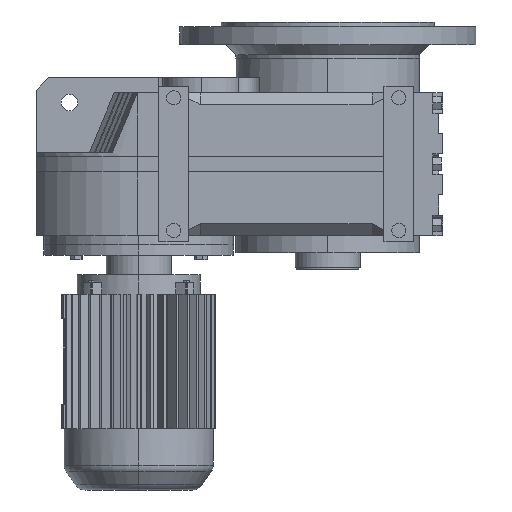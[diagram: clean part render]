
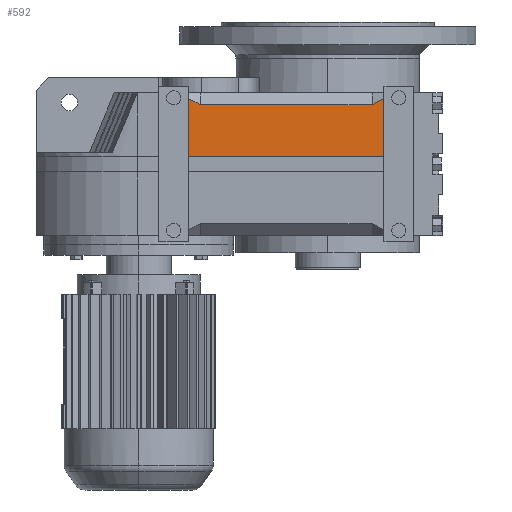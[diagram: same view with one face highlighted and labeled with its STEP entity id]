
A CAD part, left-side view. The second image highlights one B-rep face of the part: STEP entity #592.
In plain terms, the highlighted planar face has unit normal (-1, 0, 0).
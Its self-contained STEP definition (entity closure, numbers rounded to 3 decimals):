
#44 = EDGE_CURVE('',#45,#47,#49,.T.);
#45 = VERTEX_POINT('',#46);
#46 = CARTESIAN_POINT('',(-100.76,-52.,118.26));
#47 = VERTEX_POINT('',#48);
#48 = CARTESIAN_POINT('',(-100.76,-42.,123.407));
#49 = SURFACE_CURVE('',#50,(#54,#66),.PCURVE_S1.);
#50 = LINE('',#51,#52);
#51 = CARTESIAN_POINT('',(-100.76,-209.597,37.14));
#52 = VECTOR('',#53,1.);
#53 = DIRECTION('',(0.,0.889,0.458)
  );
#54 = PCURVE('',#55,#60);
#55 = PLANE('',#56);
#56 = AXIS2_PLACEMENT_3D('',#57,#58,#59);
#57 = CARTESIAN_POINT('',(-152.714,-42.,71.454));
#58 = DIRECTION('',(-0.664,-0.342,0.664));
#59 = DIRECTION('',(0.707,0.,0.707)
  );
#60 = DEFINITIONAL_REPRESENTATION('',(#61),#65);
#61 = LINE('',#62,#63);
#62 = CARTESIAN_POINT('',(12.473,-178.353));
#63 = VECTOR('',#64,1.);
#64 = DIRECTION('',(0.324,0.946));
#65 = ( GEOMETRIC_REPRESENTATION_CONTEXT(2) 
PARAMETRIC_REPRESENTATION_CONTEXT() REPRESENTATION_CONTEXT('2D SPACE',''
  ) );
#66 = PCURVE('',#67,#72);
#67 = PLANE('',#68);
#68 = AXIS2_PLACEMENT_3D('',#69,#70,#71);
#69 = CARTESIAN_POINT('',(-100.76,-256.5,128.26));
#70 = DIRECTION('',(1.,0.,0.));
#71 = DIRECTION('',(0.,1.,0.));
#72 = DEFINITIONAL_REPRESENTATION('',(#73),#77);
#73 = LINE('',#74,#75);
#74 = CARTESIAN_POINT('',(46.903,-91.12));
#75 = VECTOR('',#76,1.);
#76 = DIRECTION('',(0.889,0.458));
#77 = ( GEOMETRIC_REPRESENTATION_CONTEXT(2) 
PARAMETRIC_REPRESENTATION_CONTEXT() REPRESENTATION_CONTEXT('2D SPACE',''
  ) );
#95 = PLANE('',#96);
#96 = AXIS2_PLACEMENT_3D('',#97,#98,#99);
#97 = CARTESIAN_POINT('',(-90.76,1.,128.26));
#98 = DIRECTION('',(-0.707,0.,0.707)
  );
#99 = DIRECTION('',(0.707,0.,0.707));
#149 = PLANE('',#150);
#150 = AXIS2_PLACEMENT_3D('',#151,#152,#153);
#151 = CARTESIAN_POINT('',(-83.76,-42.,2.5));
#152 = DIRECTION('',(0.,-1.,0.));
#153 = DIRECTION('',(0.,0.,-1.));
#279 = VERTEX_POINT('',#280);
#280 = CARTESIAN_POINT('',(-100.76,-42.,74.55));
#294 = PLANE('',#295);
#295 = AXIS2_PLACEMENT_3D('',#296,#297,#298);
#296 = CARTESIAN_POINT('',(-5.343,1.,74.55));
#297 = DIRECTION('',(0.,0.,-1.));
#298 = DIRECTION('',(-1.,0.,0.));
#306 = EDGE_CURVE('',#47,#279,#307,.T.);
#307 = SURFACE_CURVE('',#308,(#312,#319),.PCURVE_S1.);
#308 = LINE('',#309,#310);
#309 = CARTESIAN_POINT('',(-100.76,-42.,128.26));
#310 = VECTOR('',#311,1.);
#311 = DIRECTION('',(0.,0.,-1.));
#312 = PCURVE('',#149,#313);
#313 = DEFINITIONAL_REPRESENTATION('',(#314),#318);
#314 = LINE('',#315,#316);
#315 = CARTESIAN_POINT('',(-125.76,-17.));
#316 = VECTOR('',#317,1.);
#317 = DIRECTION('',(1.,0.));
#318 = ( GEOMETRIC_REPRESENTATION_CONTEXT(2) 
PARAMETRIC_REPRESENTATION_CONTEXT() REPRESENTATION_CONTEXT('2D SPACE',''
  ) );
#319 = PCURVE('',#67,#320);
#320 = DEFINITIONAL_REPRESENTATION('',(#321),#325);
#321 = LINE('',#322,#323);
#322 = CARTESIAN_POINT('',(214.5,0.));
#323 = VECTOR('',#324,1.);
#324 = DIRECTION('',(0.,-1.));
#325 = ( GEOMETRIC_REPRESENTATION_CONTEXT(2) 
PARAMETRIC_REPRESENTATION_CONTEXT() REPRESENTATION_CONTEXT('2D SPACE',''
  ) );
#544 = EDGE_CURVE('',#545,#45,#547,.T.);
#545 = VERTEX_POINT('',#546);
#546 = CARTESIAN_POINT('',(-100.76,-197.,118.26));
#547 = SURFACE_CURVE('',#548,(#552,#559),.PCURVE_S1.);
#548 = LINE('',#549,#550);
#549 = CARTESIAN_POINT('',(-100.76,-42.,118.26));
#550 = VECTOR('',#551,1.);
#551 = DIRECTION('',(0.,1.,0.));
#552 = PCURVE('',#95,#553);
#553 = DEFINITIONAL_REPRESENTATION('',(#554),#558);
#554 = LINE('',#555,#556);
#555 = CARTESIAN_POINT('',(-14.142,-43.));
#556 = VECTOR('',#557,1.);
#557 = DIRECTION('',(0.,1.));
#558 = ( GEOMETRIC_REPRESENTATION_CONTEXT(2) 
PARAMETRIC_REPRESENTATION_CONTEXT() REPRESENTATION_CONTEXT('2D SPACE',''
  ) );
#559 = PCURVE('',#67,#560);
#560 = DEFINITIONAL_REPRESENTATION('',(#561),#565);
#561 = LINE('',#562,#563);
#562 = CARTESIAN_POINT('',(214.5,-10.));
#563 = VECTOR('',#564,1.);
#564 = DIRECTION('',(1.,0.));
#565 = ( GEOMETRIC_REPRESENTATION_CONTEXT(2) 
PARAMETRIC_REPRESENTATION_CONTEXT() REPRESENTATION_CONTEXT('2D SPACE',''
  ) );
#581 = PLANE('',#582);
#582 = AXIS2_PLACEMENT_3D('',#583,#584,#585);
#583 = CARTESIAN_POINT('',(-152.714,-207.,71.454));
#584 = DIRECTION('',(-0.664,0.342,0.664));
#585 = DIRECTION('',(0.707,0.,0.707)
  );
#592 = ADVANCED_FACE('',(#593),#67,.F.);
#593 = FACE_BOUND('',#594,.T.);
#594 = EDGE_LOOP('',(#595,#625,#646,#647,#648,#649));
#595 = ORIENTED_EDGE('',*,*,#596,.T.);
#596 = EDGE_CURVE('',#597,#599,#601,.T.);
#597 = VERTEX_POINT('',#598);
#598 = CARTESIAN_POINT('',(-100.76,-207.,74.55));
#599 = VERTEX_POINT('',#600);
#600 = CARTESIAN_POINT('',(-100.76,-207.,123.407));
#601 = SURFACE_CURVE('',#602,(#606,#613),.PCURVE_S1.);
#602 = LINE('',#603,#604);
#603 = CARTESIAN_POINT('',(-100.76,-207.,128.26));
#604 = VECTOR('',#605,1.);
#605 = DIRECTION('',(0.,0.,1.));
#606 = PCURVE('',#67,#607);
#607 = DEFINITIONAL_REPRESENTATION('',(#608),#612);
#608 = LINE('',#609,#610);
#609 = CARTESIAN_POINT('',(49.5,0.));
#610 = VECTOR('',#611,1.);
#611 = DIRECTION('',(0.,1.));
#612 = ( GEOMETRIC_REPRESENTATION_CONTEXT(2) 
PARAMETRIC_REPRESENTATION_CONTEXT() REPRESENTATION_CONTEXT('2D SPACE',''
  ) );
#613 = PCURVE('',#614,#619);
#614 = PLANE('',#615);
#615 = AXIS2_PLACEMENT_3D('',#616,#617,#618);
#616 = CARTESIAN_POINT('',(-83.76,-207.,2.5));
#617 = DIRECTION('',(0.,1.,0.));
#618 = DIRECTION('',(-1.,0.,0.));
#619 = DEFINITIONAL_REPRESENTATION('',(#620),#624);
#620 = LINE('',#621,#622);
#621 = CARTESIAN_POINT('',(17.,125.76));
#622 = VECTOR('',#623,1.);
#623 = DIRECTION('',(0.,1.));
#624 = ( GEOMETRIC_REPRESENTATION_CONTEXT(2) 
PARAMETRIC_REPRESENTATION_CONTEXT() REPRESENTATION_CONTEXT('2D SPACE',''
  ) );
#625 = ORIENTED_EDGE('',*,*,#626,.T.);
#626 = EDGE_CURVE('',#599,#545,#627,.T.);
#627 = SURFACE_CURVE('',#628,(#632,#639),.PCURVE_S1.);
#628 = LINE('',#629,#630);
#629 = CARTESIAN_POINT('',(-100.76,-248.107,144.566));
#630 = VECTOR('',#631,1.);
#631 = DIRECTION('',(0.,0.889,-0.458
    ));
#632 = PCURVE('',#67,#633);
#633 = DEFINITIONAL_REPRESENTATION('',(#634),#638);
#634 = LINE('',#635,#636);
#635 = CARTESIAN_POINT('',(8.393,16.306));
#636 = VECTOR('',#637,1.);
#637 = DIRECTION('',(0.889,-0.458));
#638 = ( GEOMETRIC_REPRESENTATION_CONTEXT(2) 
PARAMETRIC_REPRESENTATION_CONTEXT() REPRESENTATION_CONTEXT('2D SPACE',''
  ) );
#639 = PCURVE('',#581,#640);
#640 = DEFINITIONAL_REPRESENTATION('',(#641),#645);
#641 = LINE('',#642,#643);
#642 = CARTESIAN_POINT('',(88.435,-43.745));
#643 = VECTOR('',#644,1.);
#644 = DIRECTION('',(-0.324,0.946));
#645 = ( GEOMETRIC_REPRESENTATION_CONTEXT(2) 
PARAMETRIC_REPRESENTATION_CONTEXT() REPRESENTATION_CONTEXT('2D SPACE',''
  ) );
#646 = ORIENTED_EDGE('',*,*,#544,.T.);
#647 = ORIENTED_EDGE('',*,*,#44,.T.);
#648 = ORIENTED_EDGE('',*,*,#306,.T.);
#649 = ORIENTED_EDGE('',*,*,#650,.F.);
#650 = EDGE_CURVE('',#597,#279,#651,.T.);
#651 = SURFACE_CURVE('',#652,(#656,#663),.PCURVE_S1.);
#652 = LINE('',#653,#654);
#653 = CARTESIAN_POINT('',(-100.76,-256.5,74.55));
#654 = VECTOR('',#655,1.);
#655 = DIRECTION('',(0.,1.,0.));
#656 = PCURVE('',#67,#657);
#657 = DEFINITIONAL_REPRESENTATION('',(#658),#662);
#658 = LINE('',#659,#660);
#659 = CARTESIAN_POINT('',(0.,-53.71));
#660 = VECTOR('',#661,1.);
#661 = DIRECTION('',(1.,0.));
#662 = ( GEOMETRIC_REPRESENTATION_CONTEXT(2) 
PARAMETRIC_REPRESENTATION_CONTEXT() REPRESENTATION_CONTEXT('2D SPACE',''
  ) );
#663 = PCURVE('',#294,#664);
#664 = DEFINITIONAL_REPRESENTATION('',(#665),#669);
#665 = LINE('',#666,#667);
#666 = CARTESIAN_POINT('',(95.417,-257.5));
#667 = VECTOR('',#668,1.);
#668 = DIRECTION('',(0.,1.));
#669 = ( GEOMETRIC_REPRESENTATION_CONTEXT(2) 
PARAMETRIC_REPRESENTATION_CONTEXT() REPRESENTATION_CONTEXT('2D SPACE',''
  ) );
